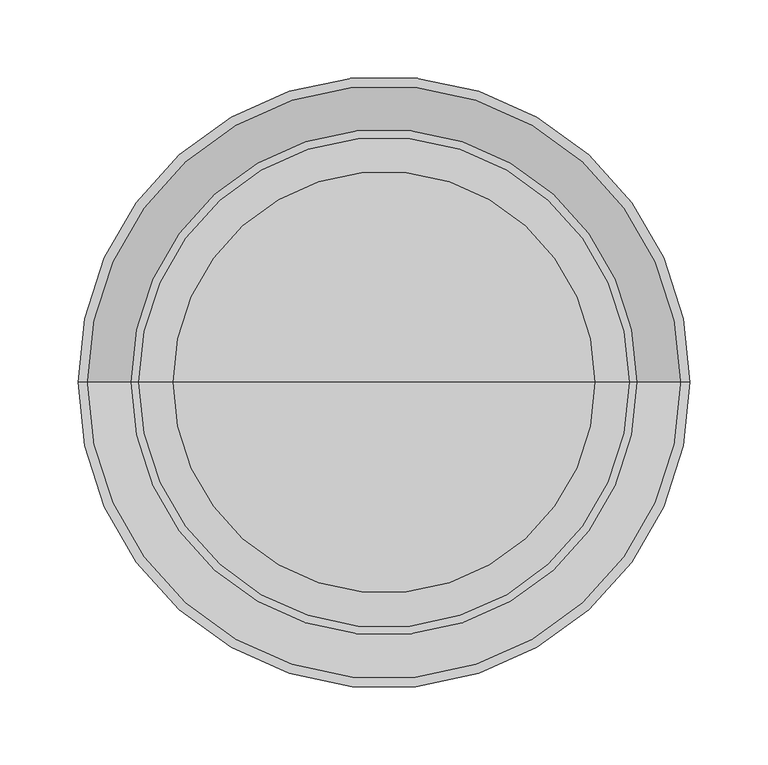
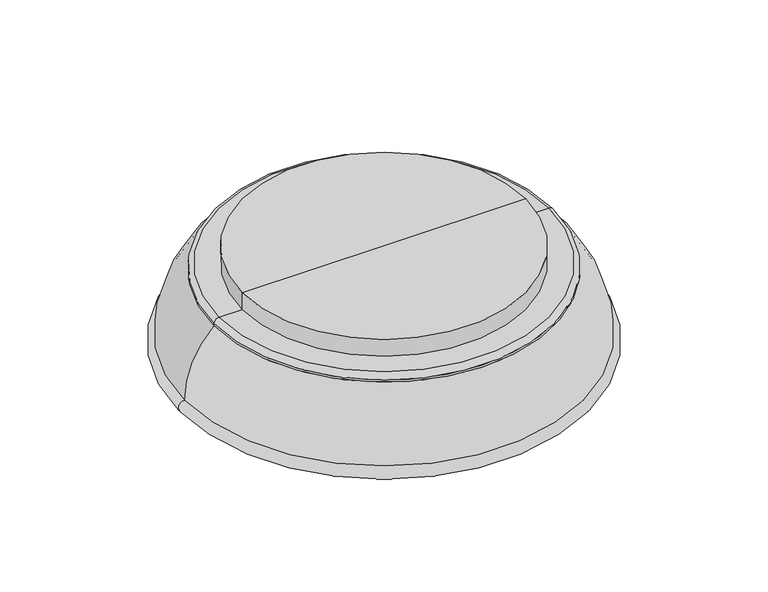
"""IFC4 building model written with IfcOpenShell, lengths in millimetres: light fixture geometry, Worker%20Round%20Ceiling : 400mm - Black - 3000K - HO - OAG 2."""

from ifc_helpers import new_model, si_unit, point, frame, origin, origin_with_axes, place, context, project, spatial, polyline, circle_curve, ellipse_curve, trimmed, source, transform, mapped, element, save
from ifc_brep_helpers import plane_surface, cylinder_surface, revolved_surface, advanced_brep


def light_fixture_df4e1012(model_context):
    return source(origin(), model_context, "Body", "AdvancedBrep", [
        advanced_brep(
        [(-135.0, 0.0, 84.0), (135.0, 0.0, 84.0), (135.0, 0.0, 101.0), (-135.0, 0.0, 101.0), (-157.0, 0.0, 84.0), (157.0, 0.0, 84.0), (0.0, 0.0, 101.0), (-162.0, 0.0, 77.0), (162.0, 0.0, 77.0), (162.0, 0.0, 79.0), (-162.0, 0.0, 79.0), (-190.0, 0.0, 12.0), (190.0, 0.0, 12.0), (-190.0, 0.0, 0.0), (190.0, 0.0, 0.0), (-180.0, 0.0, 5.0), (180.0, 0.0, 5.0), (-180.0, 0.0, 8.0), (180.0, 0.0, 8.0), (-188.5, 0.0, 12.0), (188.5, 0.0, 12.0), (-159.7952316, 0.0, 77.0), (159.7952316, 0.0, 77.0), (0.0, 0.0, 77.0)],
        [
            (0, 1, circle_curve(frame((0.0, 0.0, 84.0), z_axis=(0.0, 0.0, 1.0), x_axis=(1.0, 0.0, 0.0)), 135.0)),
            (1, 2),
            (2, 3, circle_curve(frame((0.0, 0.0, 101.0), z_axis=(0.0, 0.0, -1.0), x_axis=(1.0, 0.0, 0.0)), 135.0)),
            (3, 0),
            (1, 0, circle_curve(frame((0.0, 0.0, 84.0), z_axis=(0.0, 0.0, 1.0), x_axis=(1.0, 0.0, 0.0)), 135.0)),
            (3, 2, circle_curve(frame((0.0, 0.0, 101.0), z_axis=(0.0, 0.0, -1.0), x_axis=(1.0, 0.0, 0.0)), 135.0)),
            (4, 5, circle_curve(frame((0.0, 0.0, 84.0), z_axis=(0.0, 0.0, 1.0), x_axis=(1.0, 0.0, 0.0)), 157.0)),
            (5, 1),
            (0, 4),
            (5, 4, circle_curve(frame((0.0, 0.0, 84.0), z_axis=(0.0, 0.0, 1.0), x_axis=(1.0, 0.0, 0.0)), 157.0)),
            (2, 6),
            (6, 3),
            (7, 8, circle_curve(frame((0.0, 0.0, 77.0), z_axis=(0.0, 0.0, 1.0), x_axis=(1.0, 0.0, 0.0)), 162.0)),
            (8, 9),
            (9, 10, circle_curve(frame((0.0, 0.0, 79.0), z_axis=(0.0, 0.0, -1.0), x_axis=(1.0, 0.0, 0.0)), 162.0)),
            (10, 7),
            (8, 7, circle_curve(frame((0.0, 0.0, 77.0), z_axis=(0.0, 0.0, 1.0), x_axis=(1.0, 0.0, 0.0)), 162.0)),
            (10, 9, circle_curve(frame((0.0, 0.0, 79.0), z_axis=(0.0, 0.0, -1.0), x_axis=(1.0, 0.0, 0.0)), 162.0)),
            (11, 12, circle_curve(frame((0.0, 0.0, 12.0), z_axis=(0.0, 0.0, 1.0), x_axis=(1.0, 0.0, 0.0)), 190.0)),
            (12, 8, circle_curve(frame((100.5535714, 0.0, 12.0), z_axis=(0.0, -1.0, 0.0), x_axis=(1.0, 0.0, 0.0)), 89.4464286)),
            (7, 11, circle_curve(frame((-100.5535714, 0.0, 12.0), z_axis=(0.0, -1.0, 0.0), x_axis=(-1.0, 0.0, 0.0)), 89.4464286)),
            (12, 11, circle_curve(frame((0.0, 0.0, 12.0), z_axis=(0.0, 0.0, 1.0), x_axis=(1.0, 0.0, 0.0)), 190.0)),
            (13, 14, circle_curve(origin_with_axes(), 190.0)),
            (14, 12, circle_curve(frame((190.0, 0.0, 6.0), z_axis=(0.0, -1.0, 0.0), x_axis=(1.0, 0.0, 0.0)), 6.0)),
            (11, 13, circle_curve(frame((-190.0, 0.0, 6.0), z_axis=(0.0, -1.0, 0.0), x_axis=(-1.0, 0.0, 0.0)), 6.0)),
            (14, 13, circle_curve(origin_with_axes(), 190.0)),
            (15, 16, circle_curve(frame((0.0, 0.0, 5.0), z_axis=(0.0, 0.0, 1.0), x_axis=(1.0, 0.0, 0.0)), 180.0)),
            (16, 14),
            (13, 15),
            (16, 15, circle_curve(frame((0.0, 0.0, 5.0), z_axis=(0.0, 0.0, 1.0), x_axis=(1.0, 0.0, 0.0)), 180.0)),
            (17, 18, circle_curve(frame((0.0, 0.0, 8.0), z_axis=(0.0, 0.0, 1.0), x_axis=(1.0, 0.0, 0.0)), 180.0)),
            (18, 16),
            (15, 17),
            (18, 17, circle_curve(frame((0.0, 0.0, 8.0), z_axis=(0.0, 0.0, 1.0), x_axis=(1.0, 0.0, 0.0)), 180.0)),
            (19, 20, circle_curve(frame((0.0, 0.0, 12.0), z_axis=(0.0, 0.0, 1.0), x_axis=(1.0, 0.0, 0.0)), 188.5)),
            (20, 18),
            (17, 19),
            (20, 19, circle_curve(frame((0.0, 0.0, 12.0), z_axis=(0.0, 0.0, 1.0), x_axis=(1.0, 0.0, 0.0)), 188.5)),
            (21, 22, circle_curve(frame((0.0, 0.0, 77.0), z_axis=(0.0, 0.0, 1.0), x_axis=(1.0, 0.0, 0.0)), 159.7952316)),
            (22, 20, circle_curve(frame((100.5535714, 0.0, 12.0), z_axis=(0.0, 1.0, 0.0), x_axis=(1.0, 0.0, 0.0)), 87.9464286)),
            (19, 21, circle_curve(frame((-100.5535714, 0.0, 12.0), z_axis=(0.0, 1.0, 0.0), x_axis=(-1.0, 0.0, 0.0)), 87.9464286)),
            (22, 21, circle_curve(frame((0.0, 0.0, 77.0), z_axis=(0.0, 0.0, 1.0), x_axis=(1.0, 0.0, 0.0)), 159.7952316)),
            (23, 22),
            (21, 23),
            (9, 5, circle_curve(frame((157.0, 0.0, 79.0), z_axis=(0.0, -1.0, 0.0), x_axis=(1.0, 0.0, 0.0)), 5.0)),
            (4, 10, circle_curve(frame((-157.0, 0.0, 79.0), z_axis=(0.0, -1.0, 0.0), x_axis=(-1.0, 0.0, 0.0)), 5.0)),
        ],
        [
            cylinder_surface(frame((0.0, 0.0, 171.0), z_axis=(0.0, 0.0, -1.0), x_axis=(1.0, 0.0, 0.0)), 135.0),
            plane_surface(frame((0.0, 0.0, 84.0), z_axis=(0.0, 0.0, 1.0), x_axis=(1.0, 0.0, 0.0))),
            plane_surface(frame((0.0, 0.0, 101.0), z_axis=(0.0, 0.0, 1.0), x_axis=(1.0, 0.0, 0.0))),
            cylinder_surface(frame((0.0, 0.0, 171.0), z_axis=(0.0, 0.0, -1.0), x_axis=(1.0, 0.0, 0.0)), 162.0),
            revolved_surface(trimmed(ellipse_curve(frame((100.5535714, 0.0, 12.0), z_axis=(0.0, 1.0, 0.0), x_axis=(1.0, 0.0, 0.0)), 89.4464286, 89.4464286), [point((162.0, 0.0, 77.0))], [point((190.0, 0.0, 12.0))], True, "CARTESIAN"), (0.0, 0.0, 171.0), (0.0, 0.0, -1.0)),
            revolved_surface(trimmed(ellipse_curve(frame((190.0, 0.0, 6.0), z_axis=(0.0, 1.0, 0.0), x_axis=(1.0, 0.0, 0.0)), 6.0, 6.0), [point((190.0, 0.0, 12.0))], [point((190.0, 0.0, 0.0))], True, "CARTESIAN"), (0.0, 0.0, 171.0), (0.0, 0.0, -1.0)),
            revolved_surface(polyline([(190.0, 0.0, 0.0), (180.0, 0.0, 5.0)]), (0.0, 0.0, 171.0), (0.0, 0.0, -1.0)),
            revolved_surface(polyline([(180.0, 0.0, 5.0), (180.0, 0.0, 8.0)]), (0.0, 0.0, 171.0), (0.0, 0.0, -1.0)),
            revolved_surface(polyline([(180.0, 0.0, 8.0), (188.5, 0.0, 12.0)]), (0.0, 0.0, 171.0), (0.0, 0.0, -1.0)),
            revolved_surface(trimmed(ellipse_curve(frame((100.5535714, 0.0, 12.0), z_axis=(0.0, -1.0, 0.0), x_axis=(1.0, 0.0, 0.0)), 87.9464286, 87.9464286), [point((188.5, 0.0, 12.0))], [point((159.7952316, 0.0, 77.0))], True, "CARTESIAN"), (0.0, 0.0, 171.0), (0.0, 0.0, -1.0)),
            plane_surface(frame((0.0, 0.0, 77.0), z_axis=(0.0, 0.0, -1.0), x_axis=(1.0, 0.0, 0.0))),
            revolved_surface(trimmed(ellipse_curve(frame((157.0, 0.0, 79.0), z_axis=(0.0, 1.0, 0.0), x_axis=(1.0, 0.0, 0.0)), 5.0, 5.0), [point((157.0, 0.0, 84.0))], [point((162.0, 0.0, 79.0))], True, "CARTESIAN"), (0.0, 0.0, 171.0), (0.0, 0.0, -1.0)),
        ],
        [
            (0, [[1, 2, 3, 4]]),
            (0, [[5, -4, 6, -2]]),
            (1, [[7, 8, -1, 9]]),
            (1, [[10, -9, -5, -8]]),
            (2, [[-3, 11, 12]]),
            (2, [[-6, -12, -11]]),
            (3, [[13, 14, 15, 16]]),
            (3, [[17, -16, 18, -14]]),
            (4, [[19, 20, -13, 21]]),
            (4, [[22, -21, -17, -20]]),
            (5, [[23, 24, -19, 25]]),
            (5, [[26, -25, -22, -24]]),
            (6, [[27, 28, -23, 29]]),
            (6, [[30, -29, -26, -28]]),
            (7, [[31, 32, -27, 33]]),
            (7, [[34, -33, -30, -32]]),
            (8, [[35, 36, -31, 37]]),
            (8, [[38, -37, -34, -36]]),
            (9, [[39, 40, -35, 41]]),
            (9, [[42, -41, -38, -40]]),
            (10, [[43, -39, 44]]),
            (10, [[-44, -42, -43]]),
            (11, [[-15, 45, -7, 46]]),
            (11, [[-18, -46, -10, -45]]),
        ],
    ),
        advanced_brep(
        [(0.0, 0.0, 5.0), (180.0, 0.0, 5.0), (-180.0, 0.0, 5.0), (-180.0, 0.0, 6.0), (180.0, 0.0, 6.0), (0.0, 0.0, 6.0)],
        [
            (0, 1),
            (1, 2, circle_curve(frame((0.0, 0.0, 5.0), z_axis=(0.0, 0.0, -1.0), x_axis=(1.0, 0.0, 0.0)), 180.0)),
            (2, 0),
            (2, 1, circle_curve(frame((0.0, 0.0, 5.0), z_axis=(0.0, 0.0, -1.0), x_axis=(1.0, 0.0, 0.0)), 180.0)),
            (3, 4, circle_curve(frame((0.0, 0.0, 6.0), z_axis=(0.0, 0.0, 1.0), x_axis=(1.0, 0.0, 0.0)), 180.0)),
            (4, 5),
            (5, 3),
            (4, 3, circle_curve(frame((0.0, 0.0, 6.0), z_axis=(0.0, 0.0, 1.0), x_axis=(1.0, 0.0, 0.0)), 180.0)),
            (1, 4),
            (3, 2),
        ],
        [
            plane_surface(frame((0.0, 0.0, 5.0), z_axis=(0.0, 0.0, -1.0), x_axis=(1.0, 0.0, 0.0))),
            plane_surface(frame((0.0, 0.0, 6.0), z_axis=(0.0, 0.0, 1.0), x_axis=(1.0, 0.0, 0.0))),
            cylinder_surface(frame((0.0, 0.0, -79.0), z_axis=(0.0, 0.0, -1.0), x_axis=(1.0, 0.0, 0.0)), 180.0),
        ],
        [
            (0, [[1, 2, 3]]),
            (0, [[-3, 4, -1]]),
            (1, [[5, 6, 7]]),
            (1, [[8, -7, -6]]),
            (2, [[-2, 9, -5, 10]]),
            (2, [[-4, -10, -8, -9]]),
        ],
    ),
    ])


if __name__ == "__main__":
    model = new_model("IFC4")
    model_context = context("Model", 3, world=origin())
    ifc_project = project(units=[si_unit("LENGTHUNIT", "METRE", prefix="MILLI")], contexts=[model_context])
    site = spatial("IfcSite", under=ifc_project)
    building = spatial("IfcBuilding", under=site)
    placement = place(None, origin())
    light_fixture_shape = light_fixture_df4e1012(model_context)
    element("IfcLightFixture", 1, ObjectType="Worker%20Round%20Ceiling : 400mm - Black - 3000K - HO - OAG 2", at=placement, inside=building, context=model_context, shape_type="MappedRepresentation", body=[
        mapped(light_fixture_shape, transform((0.0, 0.0, 0.0), x_axis=(1.0, 0.0, 0.0), y_axis=(0.0, 1.0, 0.0), z_axis=(0.0, 0.0, 1.0))),
    ])
    save(model, "model.ifc")
